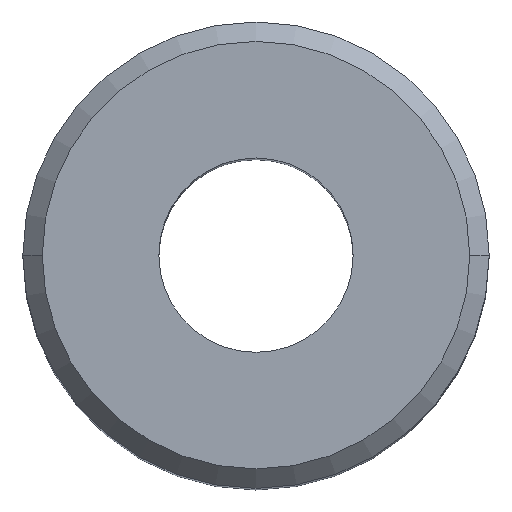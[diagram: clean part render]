
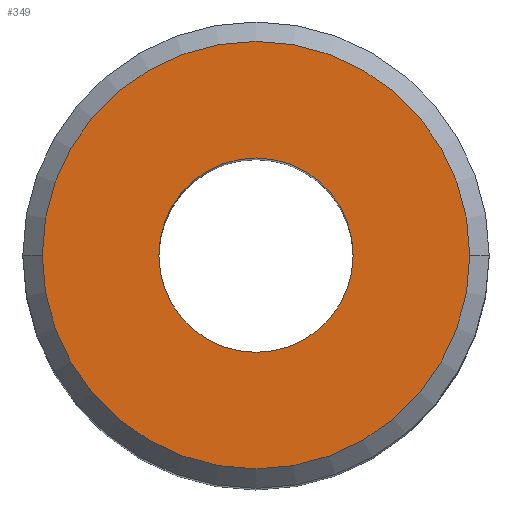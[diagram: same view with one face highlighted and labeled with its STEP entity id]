
A CAD part, top view. The second image highlights one B-rep face of the part: STEP entity #349.
In plain terms, the highlighted planar face has unit normal (0, 0, 1).
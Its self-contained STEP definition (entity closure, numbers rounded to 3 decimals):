
#21 = VERTEX_POINT ( 'NONE', #322 ) ;
#28 = VERTEX_POINT ( 'NONE', #252 ) ;
#31 = CARTESIAN_POINT ( 'NONE',  ( 0., 0., 25. ) ) ;
#36 = CIRCLE ( 'NONE', #239, 2.5 ) ;
#40 = DIRECTION ( 'NONE',  ( 0., 0., 1. ) ) ;
#57 = AXIS2_PLACEMENT_3D ( 'NONE', #260, #281, #331 ) ;
#71 = CIRCLE ( 'NONE', #57, 5.5 ) ;
#73 = CARTESIAN_POINT ( 'NONE',  ( -2.5, 0., 25. ) ) ;
#77 = PLANE ( 'NONE',  #321 ) ;
#85 = EDGE_CURVE ( 'NONE', #21, #124, #88, .T. ) ;
#88 = CIRCLE ( 'NONE', #215, 5.5 ) ;
#89 = EDGE_LOOP ( 'NONE', ( #123, #277 ) ) ;
#107 = ORIENTED_EDGE ( 'NONE', *, *, #188, .T. ) ;
#110 = EDGE_CURVE ( 'NONE', #28, #293, #134, .T. ) ;
#118 = DIRECTION ( 'NONE',  ( 0., 0., 1. ) ) ;
#120 = AXIS2_PLACEMENT_3D ( 'NONE', #326, #197, #222 ) ;
#121 = FACE_BOUND ( 'NONE', #89, .T. ) ;
#123 = ORIENTED_EDGE ( 'NONE', *, *, #214, .F. ) ;
#124 = VERTEX_POINT ( 'NONE', #142 ) ;
#134 = CIRCLE ( 'NONE', #120, 2.5 ) ;
#141 = EDGE_LOOP ( 'NONE', ( #225, #107 ) ) ;
#142 = CARTESIAN_POINT ( 'NONE',  ( 5.5, 0., 25. ) ) ;
#188 = EDGE_CURVE ( 'NONE', #124, #21, #71, .T. ) ;
#197 = DIRECTION ( 'NONE',  ( 0., 0., 1. ) ) ;
#214 = EDGE_CURVE ( 'NONE', #293, #28, #36, .T. ) ;
#215 = AXIS2_PLACEMENT_3D ( 'NONE', #31, #118, #228 ) ;
#222 = DIRECTION ( 'NONE',  ( 1., 0., 0. ) ) ;
#225 = ORIENTED_EDGE ( 'NONE', *, *, #85, .T. ) ;
#228 = DIRECTION ( 'NONE',  ( 1., 0., 0. ) ) ;
#239 = AXIS2_PLACEMENT_3D ( 'NONE', #306, #40, #334 ) ;
#252 = CARTESIAN_POINT ( 'NONE',  ( 2.5, 0., 25. ) ) ;
#260 = CARTESIAN_POINT ( 'NONE',  ( 0., 0., 25. ) ) ;
#264 = DIRECTION ( 'NONE',  ( 0., 0., 1. ) ) ;
#267 = FACE_OUTER_BOUND ( 'NONE', #141, .T. ) ;
#268 = CARTESIAN_POINT ( 'NONE',  ( 0., 0., 25. ) ) ;
#277 = ORIENTED_EDGE ( 'NONE', *, *, #110, .F. ) ;
#281 = DIRECTION ( 'NONE',  ( 0., 0., 1. ) ) ;
#293 = VERTEX_POINT ( 'NONE', #73 ) ;
#306 = CARTESIAN_POINT ( 'NONE',  ( 0., 0., 25. ) ) ;
#321 = AXIS2_PLACEMENT_3D ( 'NONE', #268, #264, #339 ) ;
#322 = CARTESIAN_POINT ( 'NONE',  ( -5.5, 0., 25. ) ) ;
#326 = CARTESIAN_POINT ( 'NONE',  ( 0., 0., 25. ) ) ;
#331 = DIRECTION ( 'NONE',  ( 1., 0., 0. ) ) ;
#334 = DIRECTION ( 'NONE',  ( 1., 0., 0. ) ) ;
#339 = DIRECTION ( 'NONE',  ( 1., 0., 0. ) ) ;
#349 = ADVANCED_FACE ( 'NONE', ( #121, #267 ), #77, .T. ) ;
